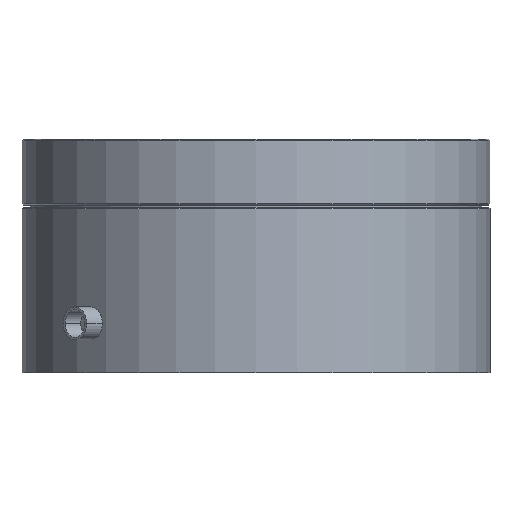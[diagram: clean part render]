
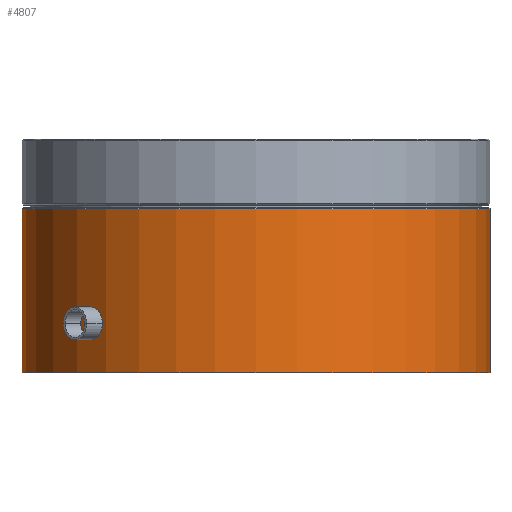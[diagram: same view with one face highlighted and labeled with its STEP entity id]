
A CAD part, front view. The second image highlights one B-rep face of the part: STEP entity #4807.
In plain terms, the highlighted cylindrical face has radius 42.5 mm (diameter 85 mm), a partial arc.
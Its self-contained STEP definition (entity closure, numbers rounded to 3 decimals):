
#12 = DIRECTION ( 'NONE',  ( 0., 0., 1. ) ) ;
#41 = CARTESIAN_POINT ( 'NONE',  ( -42.5, 0., -26.5 ) ) ;
#78 = CARTESIAN_POINT ( 'NONE',  ( 0., 0., -26.5 ) ) ;
#141 = EDGE_CURVE ( 'NONE', #4326, #2242, #558, .T. ) ;
#368 = VECTOR ( 'NONE', #4674, 1000. ) ;
#374 = VECTOR ( 'NONE', #12, 1000. ) ;
#440 = EDGE_CURVE ( 'NONE', #3509, #2242, #2603, .T. ) ;
#558 = LINE ( 'NONE', #41, #374 ) ;
#749 = DIRECTION ( 'NONE',  ( 1., 0., 0. ) ) ;
#1000 = CARTESIAN_POINT ( 'NONE',  ( 42.5, 0., -26.5 ) ) ;
#1097 = CIRCLE ( 'NONE', #1267, 42.5 ) ;
#1267 = AXIS2_PLACEMENT_3D ( 'NONE', #78, #4074, #4428 ) ;
#1547 = LINE ( 'NONE', #3021, #368 ) ;
#1739 = EDGE_CURVE ( 'NONE', #3110, #3509, #1547, .T. ) ;
#1800 = CARTESIAN_POINT ( 'NONE',  ( 0., 0., -26.5 ) ) ;
#1967 = ORIENTED_EDGE ( 'NONE', *, *, #5072, .F. ) ;
#1982 = FACE_OUTER_BOUND ( 'NONE', #3585, .T. ) ;
#2242 = VERTEX_POINT ( 'NONE', #3075 ) ;
#2251 = DIRECTION ( 'NONE',  ( 1., 0., 0. ) ) ;
#2430 = ORIENTED_EDGE ( 'NONE', *, *, #1739, .T. ) ;
#2540 = CYLINDRICAL_SURFACE ( 'NONE', #4148, 42.5 ) ;
#2603 = CIRCLE ( 'NONE', #4013, 42.5 ) ;
#3021 = CARTESIAN_POINT ( 'NONE',  ( 42.5, 0., -26.5 ) ) ;
#3075 = CARTESIAN_POINT ( 'NONE',  ( -42.5, 0., 3.3 ) ) ;
#3110 = VERTEX_POINT ( 'NONE', #1000 ) ;
#3123 = DIRECTION ( 'NONE',  ( 0., 0., -1. ) ) ;
#3374 = ORIENTED_EDGE ( 'NONE', *, *, #141, .F. ) ;
#3509 = VERTEX_POINT ( 'NONE', #4062 ) ;
#3585 = EDGE_LOOP ( 'NONE', ( #3374, #1967, #2430, #3643 ) ) ;
#3643 = ORIENTED_EDGE ( 'NONE', *, *, #440, .T. ) ;
#3790 = DIRECTION ( 'NONE',  ( 0., 0., 1. ) ) ;
#4013 = AXIS2_PLACEMENT_3D ( 'NONE', #5150, #3123, #749 ) ;
#4062 = CARTESIAN_POINT ( 'NONE',  ( 42.5, 0., 3.3 ) ) ;
#4074 = DIRECTION ( 'NONE',  ( 0., 0., -1. ) ) ;
#4148 = AXIS2_PLACEMENT_3D ( 'NONE', #1800, #3790, #2251 ) ;
#4326 = VERTEX_POINT ( 'NONE', #5129 ) ;
#4428 = DIRECTION ( 'NONE',  ( -1., 0., 0. ) ) ;
#4674 = DIRECTION ( 'NONE',  ( 0., 0., 1. ) ) ;
#4807 = ADVANCED_FACE ( 'NONE', ( #1982 ), #2540, .T. ) ;
#5072 = EDGE_CURVE ( 'NONE', #3110, #4326, #1097, .T. ) ;
#5129 = CARTESIAN_POINT ( 'NONE',  ( -42.5, 0., -26.5 ) ) ;
#5150 = CARTESIAN_POINT ( 'NONE',  ( 0., 0., 3.3 ) ) ;
